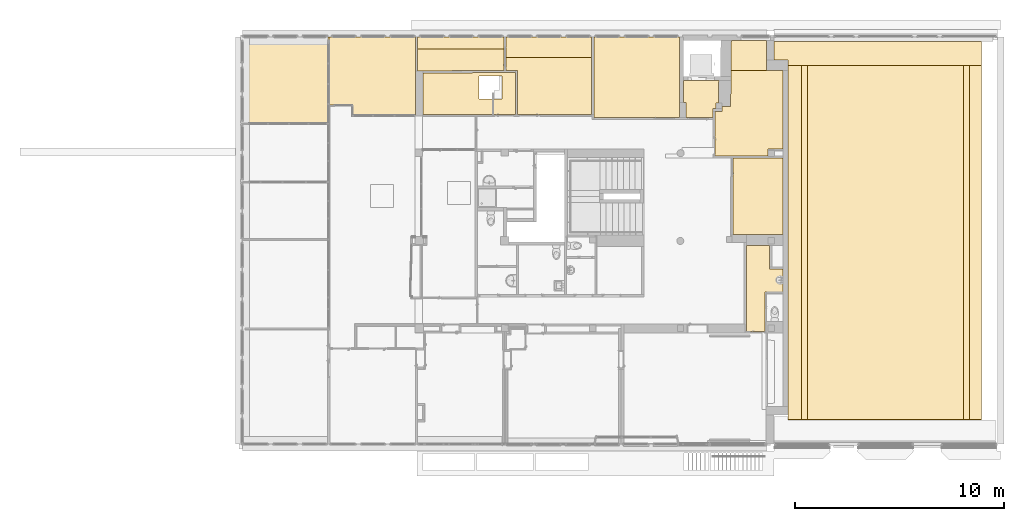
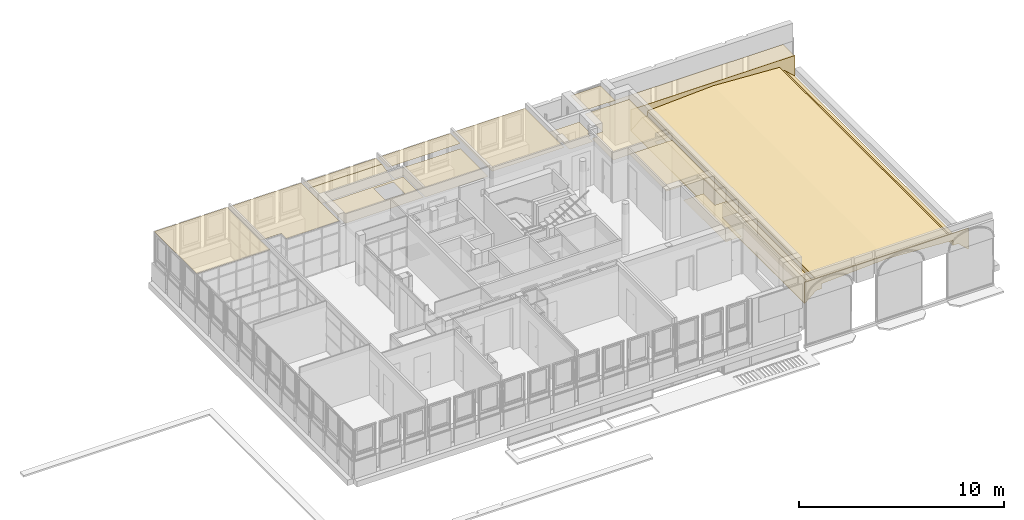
# One storey, part 95 of 97: 15 coverings.
"""IFC4 building model written with IfcOpenShell, lengths in metres."""

from ifc_helpers import new_model, entity, si_unit, converted_unit, derived_unit, direction, frame, origin, place, context, subcontext, project, spatial, polygons, material, layer, layer_set, type_object, element, save


model = new_model("IFC4")

# Units and contexts
model_context = context("Model", 3, precision=1e-05, world=origin(), true_north=direction((6.12303176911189e-17, 1.0)))
body_context = subcontext(model_context, "Body", "Model", "MODEL_VIEW")
ifc_project = project(units=[si_unit("LENGTHUNIT", "METRE"), si_unit("AREAUNIT", "SQUARE_METRE"), si_unit("VOLUMEUNIT", "CUBIC_METRE"), converted_unit("PLANEANGLEUNIT", "DEGREE", entity("IfcRatioMeasure", 0.0174532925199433), si_unit("PLANEANGLEUNIT", "RADIAN"), dimensions=[0, 0, 0, 0, 0, 0, 0]), si_unit("MASSUNIT", "GRAM", prefix="KILO"), derived_unit("MASSDENSITYUNIT", [(si_unit("MASSUNIT", "GRAM", prefix="KILO"), 1), (si_unit("LENGTHUNIT", "METRE"), -3)]), derived_unit("MOMENTOFINERTIAUNIT", [(si_unit("LENGTHUNIT", "METRE"), 4)]), si_unit("TIMEUNIT", "SECOND"), si_unit("FREQUENCYUNIT", "HERTZ"), si_unit("THERMODYNAMICTEMPERATUREUNIT", "DEGREE_CELSIUS"), derived_unit("THERMALTRANSMITTANCEUNIT", [(si_unit("MASSUNIT", "GRAM", prefix="KILO"), 1), (si_unit("THERMODYNAMICTEMPERATUREUNIT", "KELVIN"), -1), (si_unit("TIMEUNIT", "SECOND"), -3)]), derived_unit("VOLUMETRICFLOWRATEUNIT", [(si_unit("LENGTHUNIT", "METRE"), 3), (si_unit("TIMEUNIT", "SECOND"), -1)]), si_unit("ELECTRICCURRENTUNIT", "AMPERE"), si_unit("ELECTRICVOLTAGEUNIT", "VOLT"), si_unit("POWERUNIT", "WATT"), si_unit("FORCEUNIT", "NEWTON", prefix="KILO"), si_unit("ILLUMINANCEUNIT", "LUX"), si_unit("LUMINOUSFLUXUNIT", "LUMEN"), si_unit("LUMINOUSINTENSITYUNIT", "CANDELA"), derived_unit("USERDEFINED", [(si_unit("MASSUNIT", "GRAM", prefix="KILO"), -1), (si_unit("LENGTHUNIT", "METRE"), -2), (si_unit("TIMEUNIT", "SECOND"), 3), (si_unit("LUMINOUSFLUXUNIT", "LUMEN"), 1)]), derived_unit("LINEARVELOCITYUNIT", [(si_unit("LENGTHUNIT", "METRE"), 1), (si_unit("TIMEUNIT", "SECOND"), -1)]), si_unit("PRESSUREUNIT", "PASCAL"), derived_unit("USERDEFINED", [(si_unit("LENGTHUNIT", "METRE"), -2), (si_unit("MASSUNIT", "GRAM", prefix="KILO"), 1), (si_unit("TIMEUNIT", "SECOND"), -2)]), derived_unit("LINEARFORCEUNIT", [(si_unit("MASSUNIT", "GRAM", prefix="KILO"), 1), (si_unit("LENGTHUNIT", "METRE"), 1), (si_unit("TIMEUNIT", "SECOND"), -2), (si_unit("LENGTHUNIT", "METRE"), -1)]), derived_unit("PLANARFORCEUNIT", [(si_unit("MASSUNIT", "GRAM", prefix="KILO"), 1), (si_unit("LENGTHUNIT", "METRE"), 1), (si_unit("TIMEUNIT", "SECOND"), -2), (si_unit("LENGTHUNIT", "METRE"), -2)])], contexts=[model_context])

# Site, building, storey
site_placement = place(None, origin())
site = spatial("IfcSite", under=ifc_project, at=site_placement, Name="Default", CompositionType="ELEMENT")
building_placement = place(site_placement, origin())
building = spatial("IfcBuilding", under=site, at=building_placement, Name="HOTEL CONSULAIRE BOULOGNE SUR MER", CompositionType="ELEMENT")
storey_placement = place(building_placement, frame((0.0, 0.0, 3.62152697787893)))
storey = spatial("IfcBuildingStorey", under=building, at=storey_placement, Name="Niveau 1", CompositionType="ELEMENT", Elevation=3.62152697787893)

# Coverings
ifc_material = material(Name="Faux-plafond - Trame 600 x 600", Category="Divers")
covering_type_1 = type_object("IfcCoveringType", Name="Plafonds 2:Plafonds 2", PredefinedType="NOTDEFINED")
covering_1_placement = place(storey_placement, frame((12.3264778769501, -28.4151140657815, 0.341189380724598)))
element("IfcCovering", 1, at=covering_1_placement, inside=storey, type_object=covering_type_1, material=ifc_material, Name="Plafonds 2:Plafonds 2", ObjectType="Plafonds 2:Plafonds 2", PredefinedType="NOTDEFINED", context=body_context, shape_type="Tessellation", body=[
    polygons([(0.647404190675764, 16.9788217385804, 0.568122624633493), (0.952404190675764, 16.9788217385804, 0.568122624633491), (0.952404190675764, 16.9788217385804, 0.864259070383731), (4.65290671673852, 16.9788217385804, 1.06604374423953), (8.36485900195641, 16.9788217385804, 0.854307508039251), (8.36485900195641, 16.9788217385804, 0.559430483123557), (8.67385900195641, 16.9788217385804, 0.559430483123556), (9.25145809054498, 16.9788217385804, 0.0208106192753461), (9.25145809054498, 16.9788217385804, 1.29281061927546), (4.11489509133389e-14, 16.9788217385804, 1.29281061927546), (4.11489509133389e-14, 16.9788217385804, 6.17234263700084e-14), (0.647404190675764, 17.0060259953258, 0.568122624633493), (4.11489509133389e-14, 17.0060259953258, 6.17234263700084e-14), (4.11489509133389e-14, 17.0060259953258, 1.29281061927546), (9.25145809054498, 17.0060259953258, 1.29281061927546), (9.25145809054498, 17.0060259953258, 0.0208106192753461), (8.67385900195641, 17.0060259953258, 0.559430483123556), (8.36485900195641, 17.0060259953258, 0.559430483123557), (8.36485900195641, 17.0060259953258, 0.854307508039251), (4.65290671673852, 17.0060259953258, 1.06604374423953), (0.952404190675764, 17.0060259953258, 0.864259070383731), (0.952404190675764, 17.0060259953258, 0.568122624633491)], [[[11, 1, 2, 3, 4, 5, 6, 7, 8, 9, 10]], [[16, 17, 18, 19, 20, 21, 22, 12, 13, 14, 15]], [[2, 1, 12, 22]], [[7, 6, 18, 17]], [[3, 2, 22, 21]], [[9, 8, 16, 15]], [[4, 3, 21, 20]], [[5, 4, 20, 19]], [[6, 5, 19, 18]], [[11, 10, 14, 13]], [[8, 7, 17, 16]], [[10, 9, 15, 14]], [[1, 11, 13, 12]]], closed=True),
    polygons([(0.647404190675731, 2.59888111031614e-14, 0.568122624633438), (0.952404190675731, 2.59888111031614e-14, 0.568122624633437), (0.952404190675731, 2.59888111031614e-14, 0.864259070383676), (4.65290671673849, 1.29944055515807e-14, 1.06604374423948), (8.36485900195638, 4.33146851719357e-15, 0.854307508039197), (8.36485900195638, 4.33146851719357e-15, 0.559430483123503), (8.67385900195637, 0.0, 0.559430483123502), (9.25145809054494, 0.0, 0.020810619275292), (9.25145809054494, 0.0, 1.2928106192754), (8.66293703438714e-15, 2.59888111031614e-14, 1.2928106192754), (8.66293703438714e-15, 2.59888111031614e-14, 7.58006990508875e-15), (0.647404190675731, 0.0272042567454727, 0.568122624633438), (8.66293703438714e-15, 0.0272042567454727, 7.58006990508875e-15), (8.66293703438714e-15, 0.0272042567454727, 1.2928106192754), (9.25145809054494, 0.0272042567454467, 1.2928106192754), (9.25145809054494, 0.0272042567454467, 0.020810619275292), (8.67385900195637, 0.0272042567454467, 0.559430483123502), (8.36485900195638, 0.027204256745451, 0.559430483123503), (8.36485900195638, 0.027204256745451, 0.854307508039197), (4.65290671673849, 0.0272042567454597, 1.06604374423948), (0.952404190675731, 0.0272042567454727, 0.864259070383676), (0.952404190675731, 0.0272042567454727, 0.568122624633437)], [[[11, 1, 2, 3, 4, 5, 6, 7, 8, 9, 10]], [[16, 17, 18, 19, 20, 21, 22, 12, 13, 14, 15]], [[2, 1, 12, 22]], [[7, 6, 18, 17]], [[3, 2, 22, 21]], [[9, 8, 16, 15]], [[4, 3, 21, 20]], [[5, 4, 20, 19]], [[6, 5, 19, 18]], [[11, 10, 14, 13]], [[8, 7, 17, 16]], [[10, 9, 15, 14]], [[1, 11, 13, 12]]], closed=True),
    polygons([(-2.16573425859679e-15, 0.0272042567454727, 0.0399132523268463), (-2.16573425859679e-15, 0.0272042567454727, 0.0), (0.647404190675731, 0.0272042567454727, 0.568122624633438), (0.952404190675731, 0.0272042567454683, 0.568122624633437), (0.952404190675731, 0.0272042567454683, 0.864259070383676), (4.6529067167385, 0.0272042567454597, 1.06604374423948), (8.36485900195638, 0.0272042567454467, 0.854307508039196), (8.36485900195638, 0.0272042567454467, 0.559430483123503), (8.67385900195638, 0.0272042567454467, 0.559430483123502), (9.25145809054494, 0.0272042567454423, 0.0208106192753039), (9.25145809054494, 0.0272042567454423, 0.061830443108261), (8.68567631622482, 0.0272042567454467, 0.589430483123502), (8.39485900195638, 0.0272042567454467, 0.589430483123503), (8.39485900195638, 0.0272042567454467, 0.882645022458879), (4.65294434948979, 0.0272042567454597, 1.09609036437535), (0.922404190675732, 0.0272042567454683, 0.892667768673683), (0.922404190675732, 0.0272042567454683, 0.598122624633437), (0.63610754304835, 0.0272042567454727, 0.598122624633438), (4.98118879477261e-14, 16.9788217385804, 0.0399132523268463), (0.636107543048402, 16.9788217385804, 0.598122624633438), (0.922404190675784, 16.9788217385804, 0.598122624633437), (0.922404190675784, 16.9788217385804, 0.892667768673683), (4.65294434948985, 16.9788217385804, 1.09609036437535), (8.39485900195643, 16.9788217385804, 0.882645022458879), (8.39485900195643, 16.9788217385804, 0.589430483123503), (8.68567631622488, 16.9788217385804, 0.589430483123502), (9.25145809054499, 16.9788217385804, 0.061830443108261), (9.25145809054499, 16.9788217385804, 0.0208106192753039), (8.67385900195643, 16.9788217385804, 0.559430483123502), (8.36485900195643, 16.9788217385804, 0.559430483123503), (8.36485900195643, 16.9788217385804, 0.854307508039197), (4.65290671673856, 16.9788217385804, 1.06604374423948), (0.952404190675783, 16.9788217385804, 0.864259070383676), (0.952404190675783, 16.9788217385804, 0.568122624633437), (0.647404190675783, 16.9788217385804, 0.568122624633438), (4.98118879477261e-14, 16.9788217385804, 0.0)], [[[16, 17, 18, 1, 2, 3, 4, 5, 6, 7, 8, 9, 10, 11, 12, 13, 14, 15]], [[36, 19, 20, 21, 22, 23, 24, 25, 26, 27, 28, 29, 30, 31, 32, 33, 34, 35]], [[2, 1, 19, 36]], [[8, 7, 31, 30]], [[17, 16, 22, 21]], [[3, 2, 36, 35]], [[4, 3, 35, 34]], [[9, 8, 30, 29]], [[5, 4, 34, 33]], [[11, 10, 28, 27]], [[14, 13, 25, 24]], [[6, 5, 33, 32]], [[7, 6, 32, 31]], [[10, 9, 29, 28]], [[12, 11, 27, 26]], [[13, 12, 26, 25]], [[18, 17, 21, 20]], [[15, 14, 24, 23]], [[16, 15, 23, 22]], [[1, 18, 20, 19]]], closed=True),
])
ifc_layer = layer(ifc_material, 0.0, Name="Faux-plafond - Trame 600 x 600", Category="Divers")
ifc_layer_set = layer_set([ifc_layer], Name="Plafond de base:Plafond 600 mm x 1200 mm")
covering_type_2 = type_object("IfcCoveringType", Name="Plafond de base:Plafond 600 mm x 1200 mm", PredefinedType="CEILING")
covering_2_placement = place(storey_placement, frame((11.6484778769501, -11.4362923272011, 1.59936343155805)))
element("IfcCovering", 2, at=covering_2_placement, inside=storey, type_object=covering_type_2, material=ifc_layer_set, Name="Plafond de base:Plafond 600 mm x 1200 mm", ObjectType="Plafond de base:Plafond 600 mm x 1200 mm", PredefinedType="CEILING", context=body_context, shape_type="Tessellation", body=[
    polygons([(0.678000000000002, 2.81545453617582e-14, 0.0), (9.92945809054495, 0.0, 0.0), (9.92945809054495, 1.14227495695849, 0.0), (4.33146851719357e-15, 1.14227495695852, 0.0), (2.16573425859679e-15, 0.262791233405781, 0.0), (0.678000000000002, 0.262791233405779, 0.0)], [[[6, 1, 2, 3, 4, 5]]], closed=True),
])
covering_type_3 = type_object("IfcCoveringType", Name="Plafond de base:Plafond 600 mm x 1200 mm", PredefinedType="CEILING")
covering_3_placement = place(storey_placement, frame((-13.7870998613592, -14.2474499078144, 2.6817)))
element("IfcCovering", 3, at=covering_3_placement, inside=storey, type_object=covering_type_3, material=ifc_layer_set, Name="Plafond de base:Plafond 600 mm x 1200 mm", ObjectType="Plafond de base:Plafond 600 mm x 1200 mm", PredefinedType="CEILING", context=body_context, shape_type="Tessellation", body=[
    polygons([(4.13747521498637, 0.0, 0.0), (4.13747521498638, 4.17281755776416, 0.0), (2.84567988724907, 4.17281755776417, 0.0), (1.44567988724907, 4.17281755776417, 0.0), (6.49720277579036e-15, 4.17281755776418, 0.0), (4.33146851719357e-15, 2.936, 0.0), (2.16573425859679e-15, 1.33600000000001, 0.0), (0.0, 1.08286712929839e-14, 0.0)], [[[7, 8, 1, 2, 3, 4, 5, 6]]], closed=True),
])
covering_type_4 = type_object("IfcCoveringType", Name="Plafond de base:Plafond 600 mm x 1200 mm", PredefinedType="CEILING")
covering_4_placement = place(storey_placement, frame((-9.64962464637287, -13.8259141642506, 2.6859)))
element("IfcCovering", 4, at=covering_4_placement, inside=storey, type_object=covering_type_4, material=ifc_layer_set, Name="Plafond de base:Plafond 600 mm x 1200 mm", ObjectType="Plafond de base:Plafond 600 mm x 1200 mm", PredefinedType="CEILING", context=body_context, shape_type="Tessellation", body=[
    polygons([(5.41433564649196e-15, 3.75128181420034, 0.0), (0.0, 0.491363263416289, 0.0), (1.15065723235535, 0.491363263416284, 0.0), (1.15065723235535, 1.08286712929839e-14, 0.0), (4.13985146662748, 0.0, 0.0), (4.13985146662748, 2.06386800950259, 0.0), (4.13985146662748, 3.75128181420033, 0.0), (2.9082046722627, 3.75128181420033, 0.0), (1.3082046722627, 3.75128181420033, 0.0)], [[[1, 2, 3, 4, 5, 6, 7, 8, 9]]], closed=True),
])
covering_type_5 = type_object("IfcCoveringType", Name="Plafond de base:Plafond 600 mm x 1200 mm", PredefinedType="CEILING")
covering_5_placement = place(storey_placement, frame((10.3234778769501, -24.1627611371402, 2.1595)))
element("IfcCovering", 5, at=covering_5_placement, inside=storey, type_object=covering_type_5, material=ifc_layer_set, Name="Plafond de base:Plafond 600 mm x 1200 mm", ObjectType="Plafond de base:Plafond 600 mm x 1200 mm", PredefinedType="CEILING", context=body_context, shape_type="Tessellation", body=[
    polygons([(1.12142461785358, 2.98482448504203, 0.0), (1.12142461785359, 4.11182448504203, 0.0), (6.49720277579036e-15, 4.11182448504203, 0.0), (0.0, 4.33146851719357e-15, 0.0), (0.896, 4.33146851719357e-15, 0.0), (0.896000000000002, 1.88000000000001, 0.0), (1.753, 1.88000000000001, 0.0), (1.753, 2.98482448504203, 0.0)], [[[4, 5, 6, 7, 8, 1, 2, 3]]], closed=True),
])
covering_type_6 = type_object("IfcCoveringType", Name="Plafond de base:Plafond 600 mm x 1200 mm", PredefinedType="CEILING")
covering_6_placement = place(storey_placement, frame((9.68144692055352, -19.5209366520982, 2.5893)))
element("IfcCovering", 6, at=covering_6_placement, inside=storey, type_object=covering_type_6, material=ifc_layer_set, Name="Plafond de base:Plafond 600 mm x 1200 mm", ObjectType="Plafond de base:Plafond 600 mm x 1200 mm", PredefinedType="CEILING", context=body_context, shape_type="Tessellation", body=[
    polygons([(7.58006990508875e-15, 3.65002684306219, 0.0), (1.08286712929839e-15, 0.0, 0.0), (0.592030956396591, 0.0, 0.0), (2.39503095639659, 0.0, 0.0), (2.39503095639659, 3.65002684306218, 0.0)], [[[1, 2, 3, 4, 5]]], closed=True),
])
covering_type_7 = type_object("IfcCoveringType", Name="Plafond de base:Plafond 600 mm x 1200 mm", PredefinedType="CEILING")
covering_7_placement = place(storey_placement, frame((3.0442977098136, -13.9307839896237, 2.7106)))
element("IfcCovering", 7, at=covering_7_placement, inside=storey, type_object=covering_type_7, material=ifc_layer_set, Name="Plafond de base:Plafond 600 mm x 1200 mm", ObjectType="Plafond de base:Plafond 600 mm x 1200 mm", PredefinedType="CEILING", context=body_context, shape_type="Tessellation", body=[
    polygons([(4.33146851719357e-15, 3.85615163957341, 0.0), (-5.41433564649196e-16, 1.29944055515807e-14, 0.0), (4.0846825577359, 0.0, 0.0), (4.0846825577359, 0.727428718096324, 0.0), (4.0846825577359, 3.8561516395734, 0.0), (2.83328065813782, 3.85615163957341, 0.0), (1.23428065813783, 3.85615163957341, 0.0)], [[[1, 2, 3, 4, 5, 6, 7]]], closed=True),
])
covering_type_8 = type_object("IfcCoveringType", Name="Plafond de base:Plafond 600 mm x 1200 mm", PredefinedType="CEILING")
covering_8_placement = place(storey_placement, frame((-1.16703968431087, -13.7909141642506, 2.3807)))
element("IfcCovering", 8, at=covering_8_placement, inside=storey, type_object=covering_type_8, material=ifc_layer_set, Name="Plafond de base:Plafond 600 mm x 1200 mm", ObjectType="Plafond de base:Plafond 600 mm x 1200 mm", PredefinedType="CEILING", context=body_context, shape_type="Tessellation", body=[
    polygons([(9.47508738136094e-16, 2.72583922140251, 0.0), (0.0, 2.11507579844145, 0.0), (0.53424007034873, 2.1195817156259, 0.0), (0.534240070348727, 6.49720277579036e-15, 0.0), (4.08133739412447, -2.16573425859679e-15, 0.0), (4.08133739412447, 2.7258392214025, 0.0)], [[[3, 4, 5, 6, 1, 2]]], closed=True),
])
covering_type_9 = type_object("IfcCoveringType", Name="Plafond de base:Plafond 600 mm x 1200 mm", PredefinedType="CEILING")
covering_9_placement = place(storey_placement, frame((-5.40977317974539, -10.6466462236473, 2.67021454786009)))
element("IfcCovering", 9, at=covering_9_placement, inside=storey, type_object=covering_type_9, material=ifc_layer_set, Name="Plafond de base:Plafond 600 mm x 1200 mm", ObjectType="Plafond de base:Plafond 600 mm x 1200 mm", PredefinedType="CEILING", context=body_context, shape_type="Tessellation", body=[
    polygons([(0.0, 0.572013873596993, 0.0), (0.0, 1.29944055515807e-14, 0.0), (4.14273349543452, 0.0, 0.0), (4.14273349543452, 0.57201387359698, 0.0), (2.88999999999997, 0.572013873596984, 0.0), (1.28999999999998, 0.572013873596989, 0.0)], [[[1, 2, 3, 4, 5, 6]]], closed=True),
])
covering_type_10 = type_object("IfcCoveringType", Name="Plafond de base:Plafond 600 mm x 1200 mm", PredefinedType="CEILING")
covering_10_placement = place(storey_placement, frame((-5.1597731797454, -13.7909141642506, 2.3974)))
element("IfcCovering", 10, at=covering_10_placement, inside=storey, type_object=covering_type_10, material=ifc_layer_set, Name="Plafond de base:Plafond 600 mm x 1200 mm", ObjectType="Plafond de base:Plafond 600 mm x 1200 mm", PredefinedType="CEILING", context=body_context, shape_type="Tessellation", body=[
    polygons([(4.42697356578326, -2.16573425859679e-15, 0.0), (4.42697356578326, 2.01873473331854, 0.0), (2.16573425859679e-15, 1.9813965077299, 0.0), (0.0, 1.08286712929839e-14, 0.0), (3.7977668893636, 1.85584053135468, 0.0), (3.7977668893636, 0.755840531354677, 0.0), (2.6977668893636, 0.755840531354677, 0.0), (2.6977668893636, 1.85584053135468, 0.0)], [[[4, 1, 2, 3], [7, 8, 5, 6]]], closed=True),
])
covering_type_11 = type_object("IfcCoveringType", Name="Plafond de base:Plafond 600 mm x 1200 mm", PredefinedType="CEILING")
covering_11_placement = place(storey_placement, frame((8.83563829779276, -15.770909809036, 2.4798)))
element("IfcCovering", 11, at=covering_11_placement, inside=storey, type_object=covering_type_11, material=ifc_layer_set, Name="Plafond de base:Plafond 600 mm x 1200 mm", ObjectType="Plafond de base:Plafond 600 mm x 1200 mm", PredefinedType="CEILING", context=body_context, shape_type="Tessellation", body=[
    polygons([(-1.08286712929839e-15, 8.66293703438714e-15, 0.0), (2.53162045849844, 0.0, 0.0), (2.53162045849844, 0.329517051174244, 0.0), (3.24083957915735, 0.329517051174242, 0.0), (3.24083957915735, 4.09740871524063, 0.0), (0.755184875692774, 4.09740871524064, 0.0), (0.738444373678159, 2.35781466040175, 0.0), (0.333714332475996, 2.3617094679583, 0.0), (0.333714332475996, 2.1193911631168, 0.0), (3.24860138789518e-15, 2.1193911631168, 0.0)], [[[1, 2, 3, 4, 5, 6, 7, 8, 9, 10]]], closed=True),
])
covering_type_12 = type_object("IfcCoveringType", Name="Plafond de base:Plafond 600 mm x 1200 mm", PredefinedType="CEILING")
covering_12_placement = place(storey_placement, frame((7.3089802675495, -13.9307839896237, 2.5)))
element("IfcCovering", 12, at=covering_12_placement, inside=storey, type_object=covering_type_12, material=ifc_layer_set, Name="Plafond de base:Plafond 600 mm x 1200 mm", ObjectType="Plafond de base:Plafond 600 mm x 1200 mm", PredefinedType="CEILING", context=body_context, shape_type="Tessellation", body=[
    polygons([(2.16573425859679e-15, 1.7799926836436, 0.0), (0.0, 0.727428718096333, 0.0), (0.12, 0.727428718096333, 0.0), (0.119999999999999, 6.49720277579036e-15, 0.0), (1.42665803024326, 2.16573425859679e-15, 0.0), (1.42665803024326, 0.429265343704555, 0.0), (1.56037236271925, 0.429265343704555, 0.0), (1.56037236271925, 0.699265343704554, 0.0), (1.68682289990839, 0.699265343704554, 0.0), (1.6972229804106, 1.77999268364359, 0.0)], [[[4, 5, 6, 7, 8, 9, 10, 1, 2, 3]]], closed=True),
])
covering_type_13 = type_object("IfcCoveringType", Name="Plafond de base:Plafond 600 mm x 1200 mm", PredefinedType="CEILING")
covering_13_placement = place(storey_placement, frame((9.59082317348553, -11.6735010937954, 2.6985)))
element("IfcCovering", 13, at=covering_13_placement, inside=storey, type_object=covering_type_13, material=ifc_layer_set, Name="Plafond de base:Plafond 600 mm x 1200 mm", ObjectType="Plafond de base:Plafond 600 mm x 1200 mm", PredefinedType="CEILING", context=body_context, shape_type="Tessellation", body=[
    polygons([(0.0, 6.49720277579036e-15, 0.0), (1.70765470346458, 2.16573425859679e-15, 0.0), (1.70765470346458, 1.43317692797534, 0.0), (0.0137917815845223, 1.43317692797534, 0.0)], [[[4, 1, 2, 3]]], closed=True),
])
covering_type_14 = type_object("IfcCoveringType", Name="Plafond de base:Plafond 600 mm x 1200 mm", PredefinedType="CEILING")
covering_14_placement = place(storey_placement, frame((-5.40977317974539, -11.7075999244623, 2.36519182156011)))
element("IfcCovering", 14, at=covering_14_placement, inside=storey, type_object=covering_type_14, material=ifc_layer_set, Name="Plafond de base:Plafond 600 mm x 1200 mm", ObjectType="Plafond de base:Plafond 600 mm x 1200 mm", PredefinedType="CEILING", context=body_context, shape_type="Tessellation", body=[
    polygons([(3.24860138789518e-15, 1.06095370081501, 0.305022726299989), (0.0, 0.0, 0.0), (4.14273349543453, 0.0349408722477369, 0.0100454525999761), (4.14273349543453, 1.06095370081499, 0.305022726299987)], [[[1, 2, 3, 4]]], closed=True),
])
covering_type_15 = type_object("IfcCoveringType", Name="Plafond de base:Plafond 600 mm x 1200 mm", PredefinedType="CEILING")
covering_15_placement = place(storey_placement, frame((-1.16703968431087, -11.0650749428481, 2.688)))
element("IfcCovering", 15, at=covering_15_placement, inside=storey, type_object=covering_type_15, material=ifc_layer_set, Name="Plafond de base:Plafond 600 mm x 1200 mm", ObjectType="Plafond de base:Plafond 600 mm x 1200 mm", PredefinedType="CEILING", context=body_context, shape_type="Tessellation", body=[
    polygons([(1.48894230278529e-15, 0.990442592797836, 0.0), (0.0, 1.29944055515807e-14, 0.0), (4.08133739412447, 0.0, 0.0), (4.08133739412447, 0.990442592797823, 0.0), (2.8446180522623, 0.990442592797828, 0.0), (1.2446180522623, 0.990442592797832, 0.0)], [[[1, 2, 3, 4, 5, 6]]], closed=True),
])

save(model, "model.ifc")
